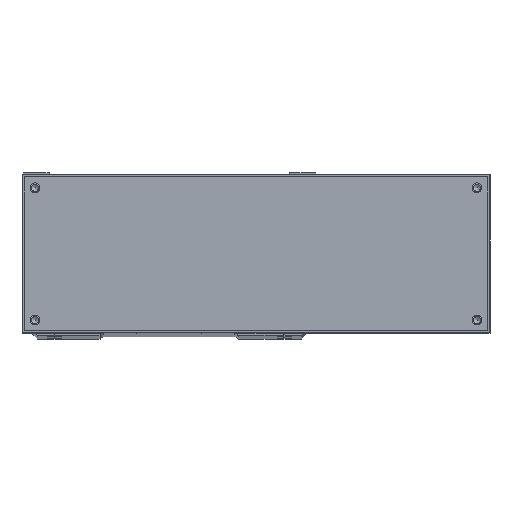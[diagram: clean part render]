
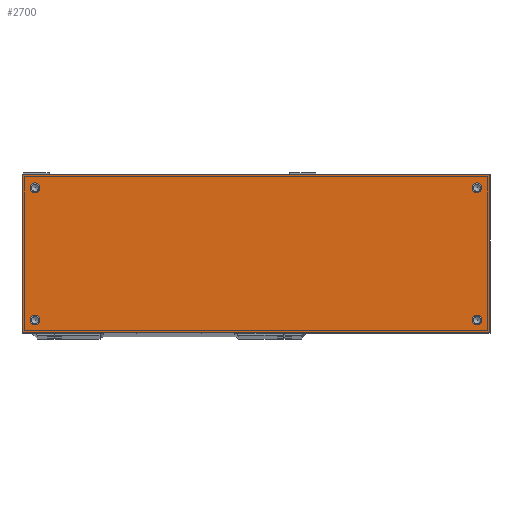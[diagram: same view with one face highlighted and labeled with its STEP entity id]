
A CAD part, top view. The second image highlights one B-rep face of the part: STEP entity #2700.
In plain terms, the highlighted planar face has unit normal (0, 0, 1).
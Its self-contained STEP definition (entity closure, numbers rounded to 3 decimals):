
#895=FACE_BOUND('',#4617,.T.);
#896=FACE_BOUND('',#4618,.T.);
#897=FACE_BOUND('',#4619,.T.);
#898=FACE_BOUND('',#4620,.T.);
#899=FACE_BOUND('',#4621,.T.);
#1973=CIRCLE('',#16387,2.25);
#1974=CIRCLE('',#16388,2.25);
#1975=CIRCLE('',#16389,2.25);
#1976=CIRCLE('',#16390,2.25);
#2700=ADVANCED_FACE('8',(#895,#896,#897,#898,#899),#3466,.F.);
#3466=PLANE('',#16391);
#4617=EDGE_LOOP('',(#6986));
#4618=EDGE_LOOP('',(#6987));
#4619=EDGE_LOOP('',(#6988));
#4620=EDGE_LOOP('',(#6989));
#4621=EDGE_LOOP('',(#6990,#6991,#6992,#6993));
#6986=ORIENTED_EDGE('',*,*,#12492,.F.);
#6987=ORIENTED_EDGE('',*,*,#12493,.F.);
#6988=ORIENTED_EDGE('',*,*,#12494,.F.);
#6989=ORIENTED_EDGE('',*,*,#12495,.F.);
#6990=ORIENTED_EDGE('',*,*,#12496,.F.);
#6991=ORIENTED_EDGE('',*,*,#12497,.F.);
#6992=ORIENTED_EDGE('',*,*,#12400,.F.);
#6993=ORIENTED_EDGE('',*,*,#12423,.F.);
#10637=VERTEX_POINT('',#24862);
#10638=VERTEX_POINT('',#24864);
#10649=VERTEX_POINT('',#24900);
#10680=VERTEX_POINT('',#25410);
#10681=VERTEX_POINT('',#25412);
#10682=VERTEX_POINT('',#25414);
#10683=VERTEX_POINT('',#25416);
#10684=VERTEX_POINT('',#25418);
#12400=EDGE_CURVE('',#10637,#10638,#14145,.T.);
#12423=EDGE_CURVE('',#10649,#10637,#14166,.T.);
#12492=EDGE_CURVE('',#10680,#10680,#1973,.T.);
#12493=EDGE_CURVE('',#10681,#10681,#1974,.T.);
#12494=EDGE_CURVE('',#10682,#10682,#1975,.T.);
#12495=EDGE_CURVE('',#10683,#10683,#1976,.T.);
#12496=EDGE_CURVE('',#10684,#10649,#14192,.T.);
#12497=EDGE_CURVE('',#10638,#10684,#14193,.T.);
#14145=LINE('',#24863,#15232);
#14166=LINE('',#24901,#15253);
#14192=LINE('',#25417,#15279);
#14193=LINE('',#25419,#15280);
#15232=VECTOR('',#19112,1.);
#15253=VECTOR('',#19143,1.);
#15279=VECTOR('',#19281,1.);
#15280=VECTOR('',#19282,1.);
#16387=AXIS2_PLACEMENT_3D('',#25409,#19273,#19274);
#16388=AXIS2_PLACEMENT_3D('',#25411,#19275,#19276);
#16389=AXIS2_PLACEMENT_3D('',#25413,#19277,#19278);
#16390=AXIS2_PLACEMENT_3D('',#25415,#19279,#19280);
#16391=AXIS2_PLACEMENT_3D('',#25420,#19283,#19284);
#19112=DIRECTION('',(0.,1.,0.));
#19143=DIRECTION('',(-1.,0.,0.));
#19273=DIRECTION('',(0.,0.,1.));
#19274=DIRECTION('',(-1.,0.,0.));
#19275=DIRECTION('',(0.,0.,1.));
#19276=DIRECTION('',(1.,0.,0.));
#19277=DIRECTION('',(0.,0.,1.));
#19278=DIRECTION('',(-1.,0.,0.));
#19279=DIRECTION('',(0.,0.,1.));
#19280=DIRECTION('',(1.,0.,0.));
#19281=DIRECTION('',(0.,-1.,0.));
#19282=DIRECTION('',(1.,0.,0.));
#19283=DIRECTION('',(0.,0.,-1.));
#19284=DIRECTION('',(1.,0.,0.));
#24862=CARTESIAN_POINT('',(-68.,0.,193.));
#24863=CARTESIAN_POINT('',(-68.,73.,193.));
#24864=CARTESIAN_POINT('',(-68.,73.,193.));
#24900=CARTESIAN_POINT('',(148.,0.,193.));
#24901=CARTESIAN_POINT('',(148.,0.,193.));
#25409=CARTESIAN_POINT('',(-62.,6.,193.));
#25410=CARTESIAN_POINT('',(-64.25,6.,193.));
#25411=CARTESIAN_POINT('',(142.,6.,193.));
#25412=CARTESIAN_POINT('',(144.25,6.,193.));
#25413=CARTESIAN_POINT('',(142.,67.,193.));
#25414=CARTESIAN_POINT('',(139.75,67.,193.));
#25415=CARTESIAN_POINT('',(-62.,67.,193.));
#25416=CARTESIAN_POINT('',(-59.75,67.,193.));
#25417=CARTESIAN_POINT('',(148.,73.,193.));
#25418=CARTESIAN_POINT('',(148.,73.,193.));
#25419=CARTESIAN_POINT('',(148.,73.,193.));
#25420=CARTESIAN_POINT('',(40.,36.5,193.));
